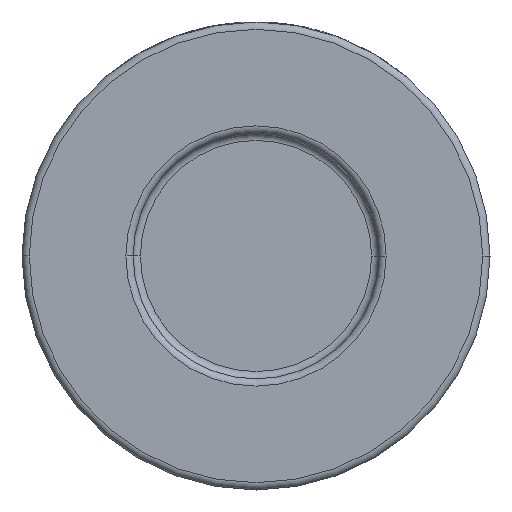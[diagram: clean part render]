
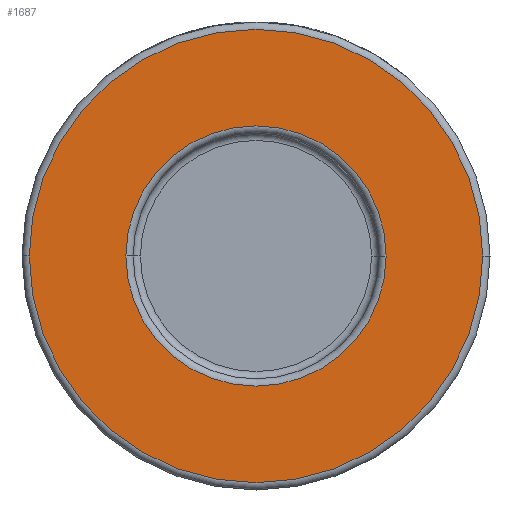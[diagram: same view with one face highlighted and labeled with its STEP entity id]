
A CAD part, front view. The second image highlights one B-rep face of the part: STEP entity #1687.
In plain terms, the highlighted planar face has unit normal (0, -1, 0).
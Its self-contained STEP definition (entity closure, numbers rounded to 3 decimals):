
#43 = CARTESIAN_POINT ( 'NONE',  ( 0., -22., 0. ) ) ;
#178 = CARTESIAN_POINT ( 'NONE',  ( 0., -22., 0. ) ) ;
#216 = DIRECTION ( 'NONE',  ( 1., 0., 0. ) ) ;
#237 = ORIENTED_EDGE ( 'NONE', *, *, #1365, .T. ) ;
#295 = VERTEX_POINT ( 'NONE', #3758 ) ;
#323 = VERTEX_POINT ( 'NONE', #496 ) ;
#432 = DIRECTION ( 'NONE',  ( 1., 0., 0. ) ) ;
#496 = CARTESIAN_POINT ( 'NONE',  ( -31., -22., 0. ) ) ;
#575 = CARTESIAN_POINT ( 'NONE',  ( 32., -22., 0. ) ) ;
#639 = AXIS2_PLACEMENT_3D ( 'NONE', #1952, #3359, #216 ) ;
#689 = AXIS2_PLACEMENT_3D ( 'NONE', #178, #4328, #2312 ) ;
#793 = DIRECTION ( 'NONE',  ( 0., 1., 0. ) ) ;
#818 = FACE_BOUND ( 'NONE', #3015, .T. ) ;
#1038 = CARTESIAN_POINT ( 'NONE',  ( 0., -22., 0. ) ) ;
#1129 = CIRCLE ( 'NONE', #3700, 31. ) ;
#1215 = EDGE_CURVE ( 'NONE', #4329, #295, #3496, .T. ) ;
#1365 = EDGE_CURVE ( 'NONE', #295, #4329, #3536, .T. ) ;
#1687 = ADVANCED_FACE ( 'NONE', ( #818, #3976 ), #2251, .T. ) ;
#1952 = CARTESIAN_POINT ( 'NONE',  ( 0., -22., 0. ) ) ;
#1966 = DIRECTION ( 'NONE',  ( 0., -1., 0. ) ) ;
#2026 = DIRECTION ( 'NONE',  ( 0., -1., 0. ) ) ;
#2065 = AXIS2_PLACEMENT_3D ( 'NONE', #43, #793, #432 ) ;
#2221 = DIRECTION ( 'NONE',  ( 1., 0., 0. ) ) ;
#2251 = PLANE ( 'NONE',  #2440 ) ;
#2312 = DIRECTION ( 'NONE',  ( 1., 0., 0. ) ) ;
#2440 = AXIS2_PLACEMENT_3D ( 'NONE', #575, #1966, #2221 ) ;
#2646 = ORIENTED_EDGE ( 'NONE', *, *, #3320, .T. ) ;
#3015 = EDGE_LOOP ( 'NONE', ( #237, #4031 ) ) ;
#3075 = CARTESIAN_POINT ( 'NONE',  ( 31., -22., 0. ) ) ;
#3092 = EDGE_CURVE ( 'NONE', #3702, #323, #1129, .T. ) ;
#3320 = EDGE_CURVE ( 'NONE', #323, #3702, #3997, .T. ) ;
#3359 = DIRECTION ( 'NONE',  ( 0., 1., 0. ) ) ;
#3475 = DIRECTION ( 'NONE',  ( 1., 0., 0. ) ) ;
#3496 = CIRCLE ( 'NONE', #639, 17.8 ) ;
#3536 = CIRCLE ( 'NONE', #2065, 17.8 ) ;
#3700 = AXIS2_PLACEMENT_3D ( 'NONE', #1038, #2026, #3475 ) ;
#3702 = VERTEX_POINT ( 'NONE', #3075 ) ;
#3715 = CARTESIAN_POINT ( 'NONE',  ( -17.8, -22., 0. ) ) ;
#3758 = CARTESIAN_POINT ( 'NONE',  ( 17.8, -22., 0. ) ) ;
#3976 = FACE_OUTER_BOUND ( 'NONE', #4160, .T. ) ;
#3997 = CIRCLE ( 'NONE', #689, 31. ) ;
#4031 = ORIENTED_EDGE ( 'NONE', *, *, #1215, .T. ) ;
#4160 = EDGE_LOOP ( 'NONE', ( #4272, #2646 ) ) ;
#4272 = ORIENTED_EDGE ( 'NONE', *, *, #3092, .T. ) ;
#4328 = DIRECTION ( 'NONE',  ( 0., -1., 0. ) ) ;
#4329 = VERTEX_POINT ( 'NONE', #3715 ) ;
